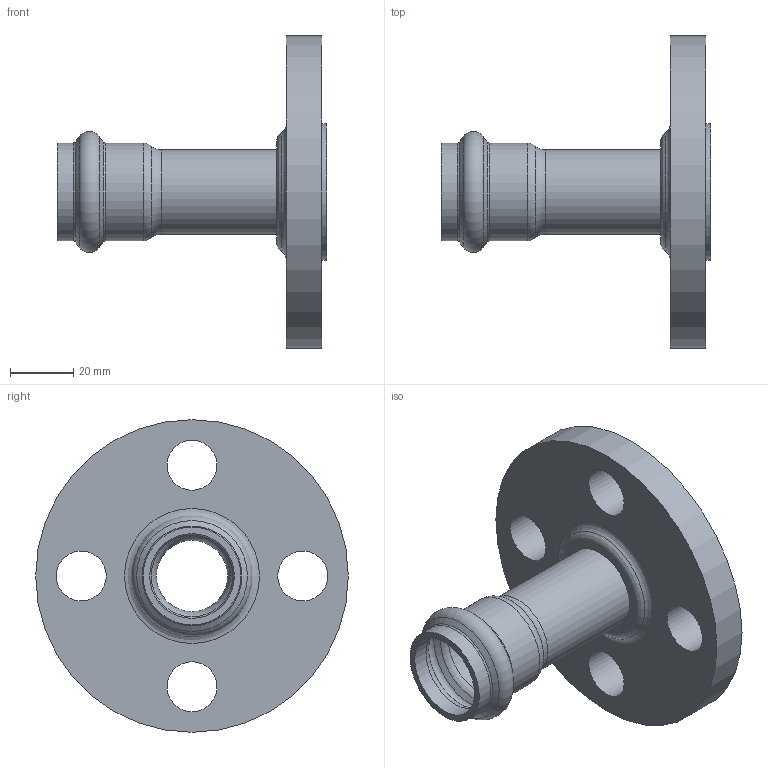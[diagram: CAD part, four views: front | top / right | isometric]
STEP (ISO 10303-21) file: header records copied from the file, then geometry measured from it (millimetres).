
FILE_DESCRIPTION(/* description */ ('VIC FLANGE ADAPTER STYLE P595','CAx-IF Rec.Pracs.---Representation and Presentation of Product Manufacturing Information (PMI)---4.0---2014-10-13'),/* implementation_level */ '2;1');
FILE_NAME(/* name */ 'C:\Users\Vjadhav\AppData\Roaming\Autodesk\ApplicationPlugins\Back Up\Victaulic_SS-Vic-Press-TP 304_Flange Adapter_CL 150 RF_Style P595 (VPxFLG)\Victaulic_SS-Vic-Press-TP 304_Flange Adapter_CL 150 RF_Style P595 (VPxFLG)_0.75 (20).stp',/* time_stamp */ '2020-08-12T17:42:00+05:00',/* author */ ('cgray'),/* organization */ ('Victaulic'),/* preprocessor_version */ 'ST-DEVELOPER v17.2',/* originating_system */ 'Autodesk Inventor 2019',/* authorisation */ '');
FILE_SCHEMA (('AP242_MANAGED_MODEL_BASED_3D_ENGINEERING_MIM_LF { 1 0 10303 442 1 1 4 }'));
Length unit declared in the file: inch
Products named in the file (1): P595-0.75
Bounding box: 84.84 x 98.55 x 98.55 mm (x, y, z)
Volume: 88905.4 mm3; surface area: 32435.5 mm2
Topology: 1 solids, 1 shells, 33 faces, 114 edges, 86 vertices
Faces by surface type: cylinder 12, torus 12, plane 5, cone 4
Full cylindrical faces by diameter (mm): 15.748 x4, 22.454 x1, 26.67 x3, 30.886 x2, 42.926 x1, 98.552 x1
Entity records: 1531 total; most frequent: DIRECTION 306, CARTESIAN_POINT 251, ORIENTED_EDGE 228, AXIS2_PLACEMENT_3D 145, EDGE_CURVE 114, CIRCLE 98, VERTEX_POINT 86, EDGE_LOOP 46
